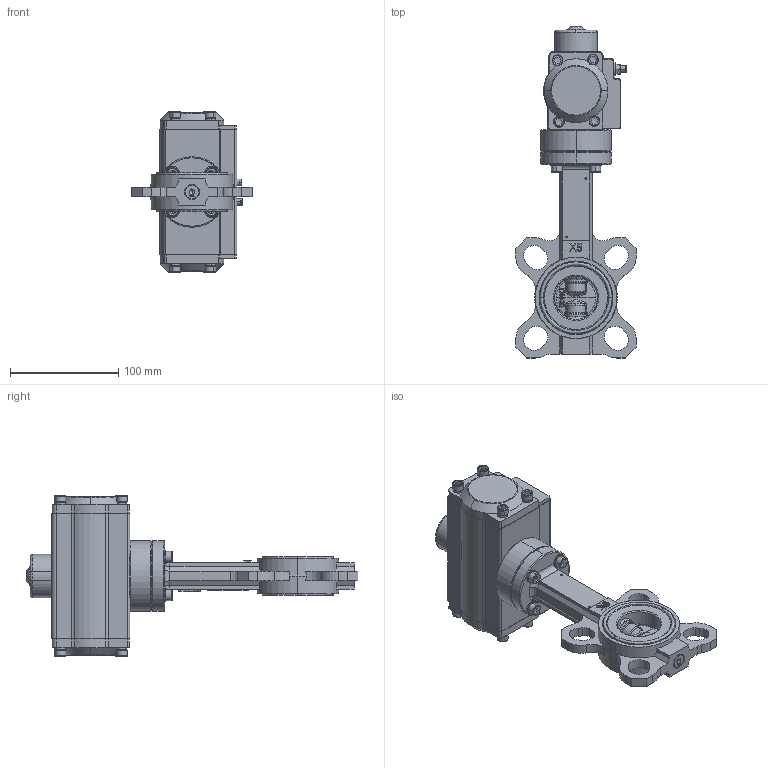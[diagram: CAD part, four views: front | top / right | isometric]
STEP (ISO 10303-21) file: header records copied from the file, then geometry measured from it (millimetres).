
FILE_DESCRIPTION (( 'STEP AP203' ), '1' );
FILE_NAME ('VPI-N03 DN40.step', '2016-09-29T15:05:46', ( 'TECOFI' ), ( '' ), 'SwSTEP 2.0', 'SolidWorks 2014', '' );
FILE_SCHEMA (( 'CONFIG_CONTROL_DESIGN' ));
Products named in the file (1): VPI-N03 DN40
Bounding box: 111 x 306.32 x 148.56 mm (x, y, z)
Volume: 693535.7 mm3; surface area: 225494.5 mm2
Topology: 59 solids, 59 shells, 2316 faces, 5735 edges, 3655 vertices
Faces by surface type: plane 886, cylinder 654, bspline 413, cone 337, torus 26
Entity records: 90569 total; most frequent: CARTESIAN_POINT 38801, ORIENTED_EDGE 11422, DIRECTION 9675, EDGE_CURVE 5711, VERTEX_POINT 3655, AXIS2_PLACEMENT_3D 3625, EDGE_LOOP 2574, VECTOR 2425
